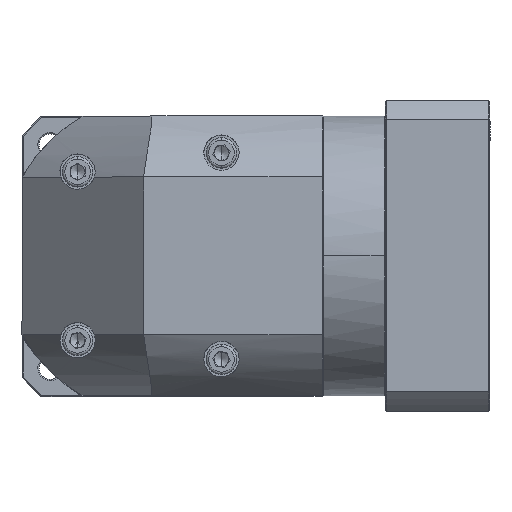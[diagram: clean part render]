
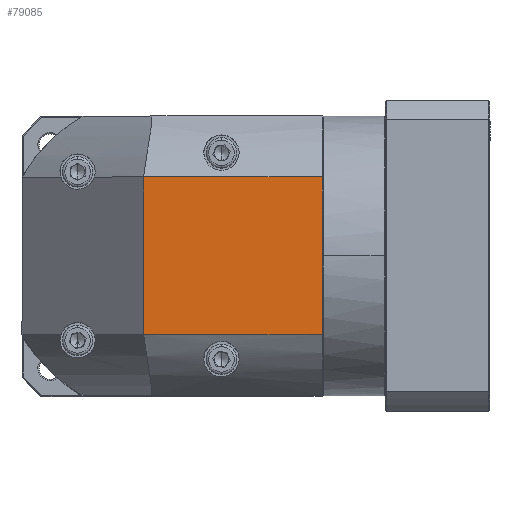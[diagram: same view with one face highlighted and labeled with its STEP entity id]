
A CAD part, top view. The second image highlights one B-rep face of the part: STEP entity #79085.
In plain terms, the highlighted planar face has unit normal (0, 0, 1).
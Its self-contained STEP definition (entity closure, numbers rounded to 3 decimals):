
#7590 = VECTOR ( 'NONE', #127432, 1000. ) ;
#8459 = DIRECTION ( 'NONE',  ( 0., 0., -1. ) ) ;
#12690 = CARTESIAN_POINT ( 'NONE',  ( 103.149, 90.131, 53.635 ) ) ;
#15639 = ORIENTED_EDGE ( 'NONE', *, *, #39560, .F. ) ;
#18030 = DIRECTION ( 'NONE',  ( 0., 1., 0. ) ) ;
#18970 = DIRECTION ( 'NONE',  ( 1., 0., 0. ) ) ;
#25356 = DIRECTION ( 'NONE',  ( 0., -1., 0. ) ) ;
#26601 = VECTOR ( 'NONE', #18030, 1000. ) ;
#28480 = CARTESIAN_POINT ( 'NONE',  ( 37.249, 57.731, 53.635 ) ) ;
#34861 = CARTESIAN_POINT ( 'NONE',  ( 29.749, 25.331, 53.635 ) ) ;
#37306 = EDGE_CURVE ( 'NONE', #137511, #54407, #50395, .T. ) ;
#39560 = EDGE_CURVE ( 'NONE', #114401, #137511, #88008, .T. ) ;
#45124 = ORIENTED_EDGE ( 'NONE', *, *, #37306, .F. ) ;
#45486 = AXIS2_PLACEMENT_3D ( 'NONE', #28480, #8459, #72565 ) ;
#50395 = LINE ( 'NONE', #71919, #118697 ) ;
#52840 = CARTESIAN_POINT ( 'NONE',  ( -20.251, 25.331, 53.635 ) ) ;
#54407 = VERTEX_POINT ( 'NONE', #12690 ) ;
#70137 = ORIENTED_EDGE ( 'NONE', *, *, #117202, .F. ) ;
#71919 = CARTESIAN_POINT ( 'NONE',  ( -20.251, 90.131, 53.635 ) ) ;
#72565 = DIRECTION ( 'NONE',  ( 0., -1., 0. ) ) ;
#75710 = LINE ( 'NONE', #78762, #84041 ) ;
#77855 = CARTESIAN_POINT ( 'NONE',  ( 29.749, 90.131, 53.635 ) ) ;
#78762 = CARTESIAN_POINT ( 'NONE',  ( 103.149, 115.231, 53.635 ) ) ;
#79085 = ADVANCED_FACE ( 'NONE', ( #136890 ), #114600, .F. ) ;
#81263 = CARTESIAN_POINT ( 'NONE',  ( 29.749, 115.231, 53.635 ) ) ;
#84041 = VECTOR ( 'NONE', #25356, 1000. ) ;
#85027 = EDGE_LOOP ( 'NONE', ( #45124, #15639, #137017, #70137 ) ) ;
#88008 = LINE ( 'NONE', #81263, #26601 ) ;
#114401 = VERTEX_POINT ( 'NONE', #34861 ) ;
#114600 = PLANE ( 'NONE',  #45486 ) ;
#117202 = EDGE_CURVE ( 'NONE', #54407, #122272, #75710, .T. ) ;
#118697 = VECTOR ( 'NONE', #18970, 1000. ) ;
#120657 = EDGE_CURVE ( 'NONE', #122272, #114401, #134250, .T. ) ;
#122272 = VERTEX_POINT ( 'NONE', #131535 ) ;
#127432 = DIRECTION ( 'NONE',  ( -1., 0., 0. ) ) ;
#131535 = CARTESIAN_POINT ( 'NONE',  ( 103.149, 25.331, 53.635 ) ) ;
#134250 = LINE ( 'NONE', #52840, #7590 ) ;
#136890 = FACE_OUTER_BOUND ( 'NONE', #85027, .T. ) ;
#137017 = ORIENTED_EDGE ( 'NONE', *, *, #120657, .F. ) ;
#137511 = VERTEX_POINT ( 'NONE', #77855 ) ;
